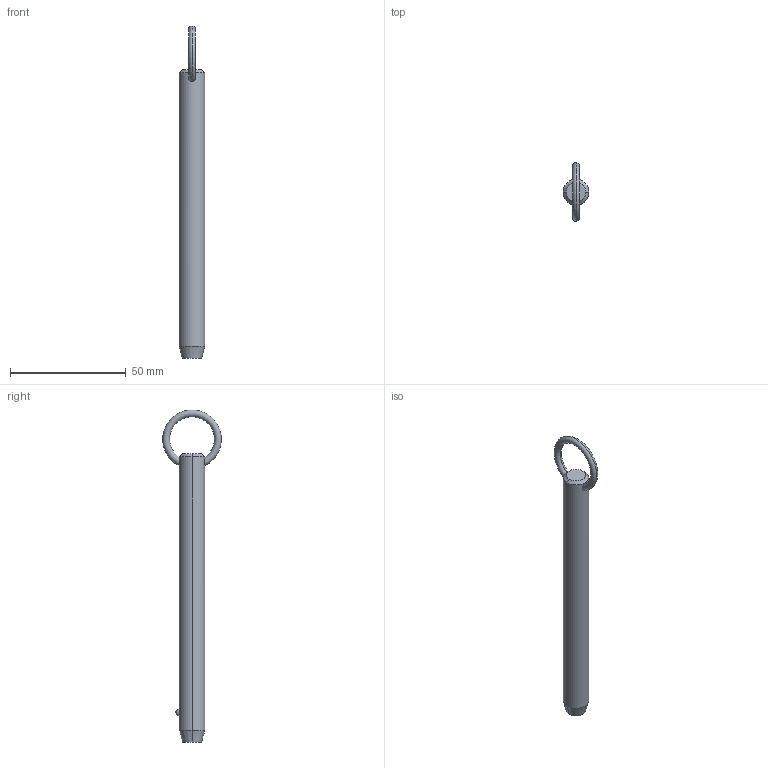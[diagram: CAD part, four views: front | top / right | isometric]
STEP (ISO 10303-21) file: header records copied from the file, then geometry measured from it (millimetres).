
FILE_DESCRIPTION (( 'STEP AP203' ), '1' );
FILE_NAME ('P1250.050-410.step', '2019-07-29T20:36:22', ( '' ), ( '' ), 'SwSTEP 2.0', 'SolidWorks 2017', '' );
FILE_SCHEMA (( 'CONFIG_CONTROL_DESIGN' ));
Length unit declared in the file: millimetre
Products named in the file (1): P1250.050-410
Bounding box: 11.1 x 25.32 x 143.65 mm (x, y, z)
Volume: 12349.8 mm3; surface area: 5001.1 mm2
Topology: 1 solids, 1 shells, 12 faces, 28 edges, 17 vertices
Faces by surface type: cone 4, torus 2, sphere 2, cylinder 2, plane 2
Entity records: 523 total; most frequent: CARTESIAN_POINT 190, DIRECTION 56, ORIENTED_EDGE 48, AXIS2_PLACEMENT_3D 25, EDGE_CURVE 24, VERTEX_POINT 15, EDGE_LOOP 15, ADVANCED_FACE 12
